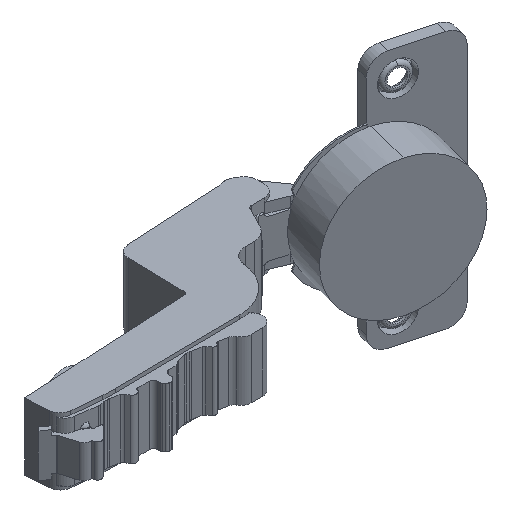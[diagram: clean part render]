
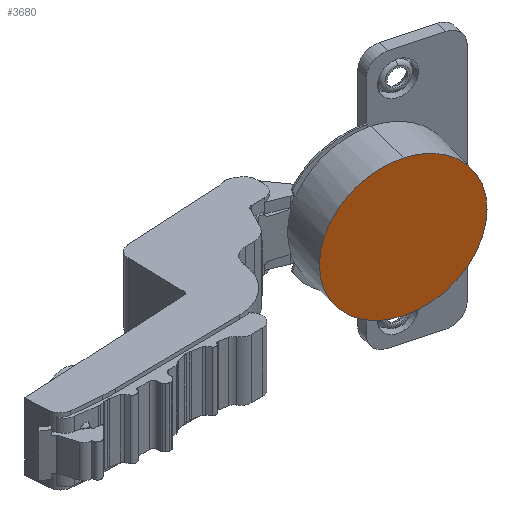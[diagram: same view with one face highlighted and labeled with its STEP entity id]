
A CAD part, isometric view. The second image highlights one B-rep face of the part: STEP entity #3680.
In plain terms, the highlighted planar face has unit normal (-0.261, -0.965, 0).
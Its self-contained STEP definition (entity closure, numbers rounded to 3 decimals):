
#171 = DIRECTION ( 'NONE',  ( 0.965, -0.261, 0. ) ) ;
#714 = EDGE_CURVE ( 'NONE', #4924, #4211, #5566, .T. ) ;
#930 = DIRECTION ( 'NONE',  ( 0.965, -0.261, 0. ) ) ;
#971 = DIRECTION ( 'NONE',  ( -0.261, -0.965, 0. ) ) ;
#1015 = CARTESIAN_POINT ( 'NONE',  ( -5.239, -17.099, 0. ) ) ;
#1692 = EDGE_CURVE ( 'NONE', #4211, #4924, #5838, .T. ) ;
#1843 = EDGE_LOOP ( 'NONE', ( #6008, #5529 ) ) ;
#1855 = AXIS2_PLACEMENT_3D ( 'NONE', #1015, #971, #930 ) ;
#2917 = DIRECTION ( 'NONE',  ( 0., 0., 1. ) ) ;
#3001 = CARTESIAN_POINT ( 'NONE',  ( -5.239, -17.099, 17.4 ) ) ;
#3680 = ADVANCED_FACE ( 'NONE', ( #4691 ), #5251, .F. ) ;
#4074 = AXIS2_PLACEMENT_3D ( 'NONE', #4092, #5211, #2917 ) ;
#4092 = CARTESIAN_POINT ( 'NONE',  ( 5.347, -19.961, -7.7 ) ) ;
#4211 = VERTEX_POINT ( 'NONE', #3001 ) ;
#4537 = CARTESIAN_POINT ( 'NONE',  ( -5.239, -17.099, 0. ) ) ;
#4691 = FACE_OUTER_BOUND ( 'NONE', #1843, .T. ) ;
#4836 = AXIS2_PLACEMENT_3D ( 'NONE', #4537, #7623, #171 ) ;
#4924 = VERTEX_POINT ( 'NONE', #6126 ) ;
#5211 = DIRECTION ( 'NONE',  ( 0.261, 0.965, 0. ) ) ;
#5251 = PLANE ( 'NONE',  #4074 ) ;
#5529 = ORIENTED_EDGE ( 'NONE', *, *, #714, .T. ) ;
#5566 = CIRCLE ( 'NONE', #1855, 17.4 ) ;
#5838 = CIRCLE ( 'NONE', #4836, 17.4 ) ;
#6008 = ORIENTED_EDGE ( 'NONE', *, *, #1692, .T. ) ;
#6126 = CARTESIAN_POINT ( 'NONE',  ( -5.239, -17.099, -17.4 ) ) ;
#7623 = DIRECTION ( 'NONE',  ( -0.261, -0.965, 0. ) ) ;
